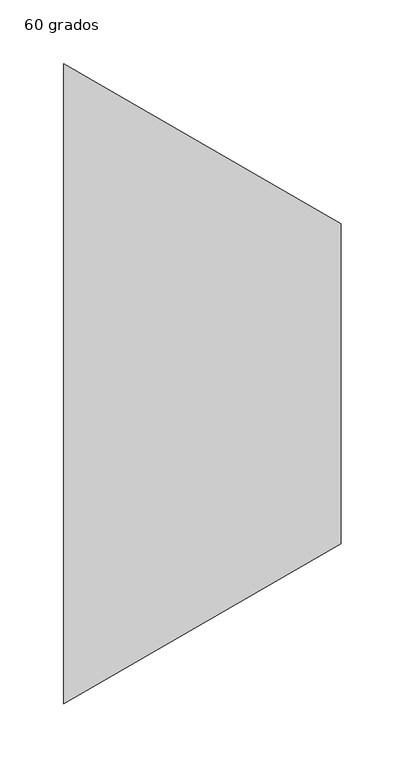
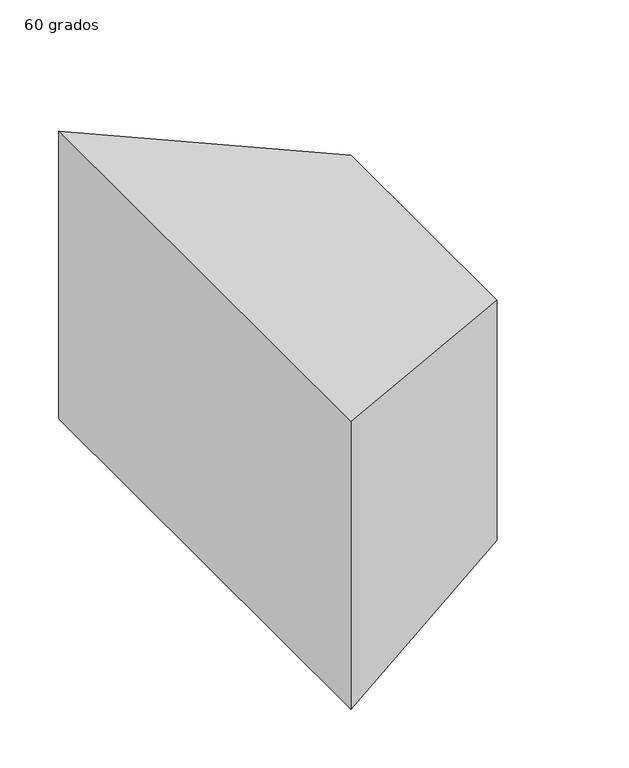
"""IFC4 building model written with IfcOpenShell, lengths in millimetres: duct fitting geometry, M_Transición rectangular - Ángulo : 60 grados."""

from ifc_helpers import new_model, si_unit, origin, place, context, project, spatial, faceted_brep, source, transform, mapped, element, save


def duct_fitting_60_grados_1104d0bb(model_context):
    return source(origin(), model_context, "Body", "Brep", [
        faceted_brep([(216.5063509, -125.0, 125.0), (216.5063509, -125.0, -125.0), (216.5063509, 125.0, -125.0), (216.5063509, 125.0, 125.0), (0.0, -250.0, 150.0), (0.0, 250.0, 150.0), (0.0, 250.0, -150.0), (0.0, -250.0, -150.0)], [[[0, 1, 2, 3]], [[4, 5, 6, 7]], [[4, 7, 1, 0]], [[7, 6, 2, 1]], [[6, 5, 3, 2]], [[5, 4, 0, 3]]]),
    ])


if __name__ == "__main__":
    model = new_model("IFC4")
    model_context = context("Model", 3, world=origin())
    ifc_project = project(units=[si_unit("LENGTHUNIT", "METRE", prefix="MILLI")], contexts=[model_context])
    site = spatial("IfcSite", under=ifc_project)
    building = spatial("IfcBuilding", under=site)
    placement = place(None, origin())
    duct_fitting_60_grados_shape = duct_fitting_60_grados_1104d0bb(model_context)
    element("IfcDuctFitting", 1, ObjectType="M_Transición rectangular - Ángulo : 60 grados", at=placement, inside=building, context=model_context, shape_type="MappedRepresentation", body=[
        mapped(duct_fitting_60_grados_shape, transform((0.0, 0.0, 0.0), x_axis=(1.0, 0.0, 0.0), y_axis=(0.0, 1.0, 0.0), z_axis=(0.0, 0.0, 1.0))),
    ])
    save(model, "model.ifc")
